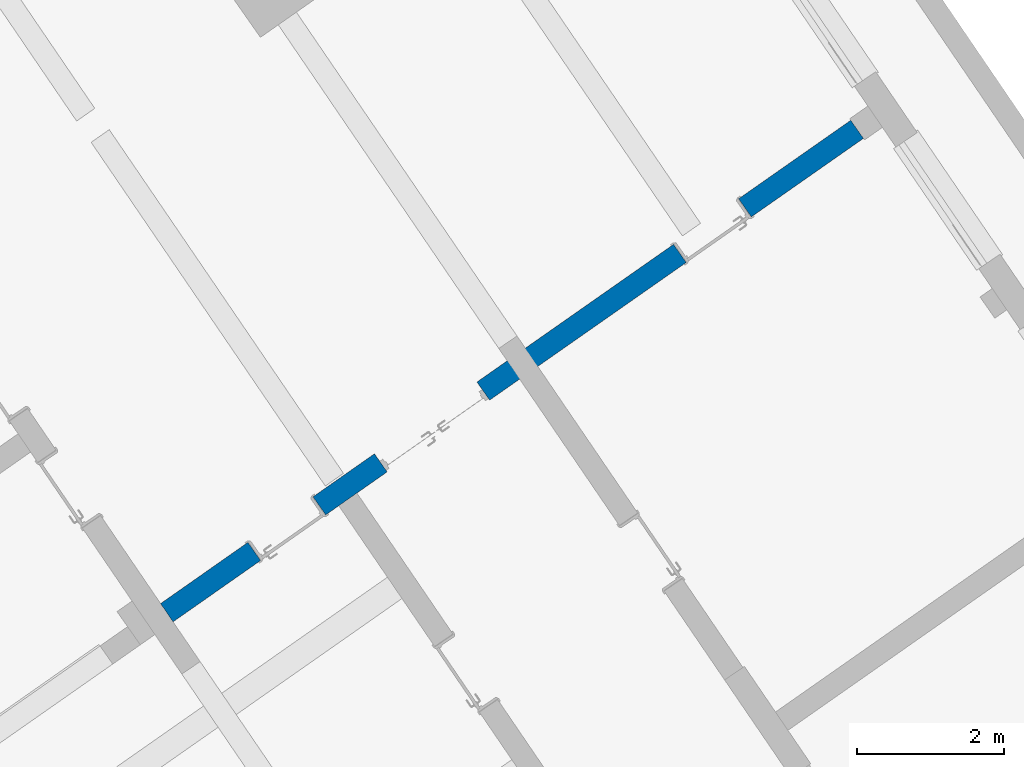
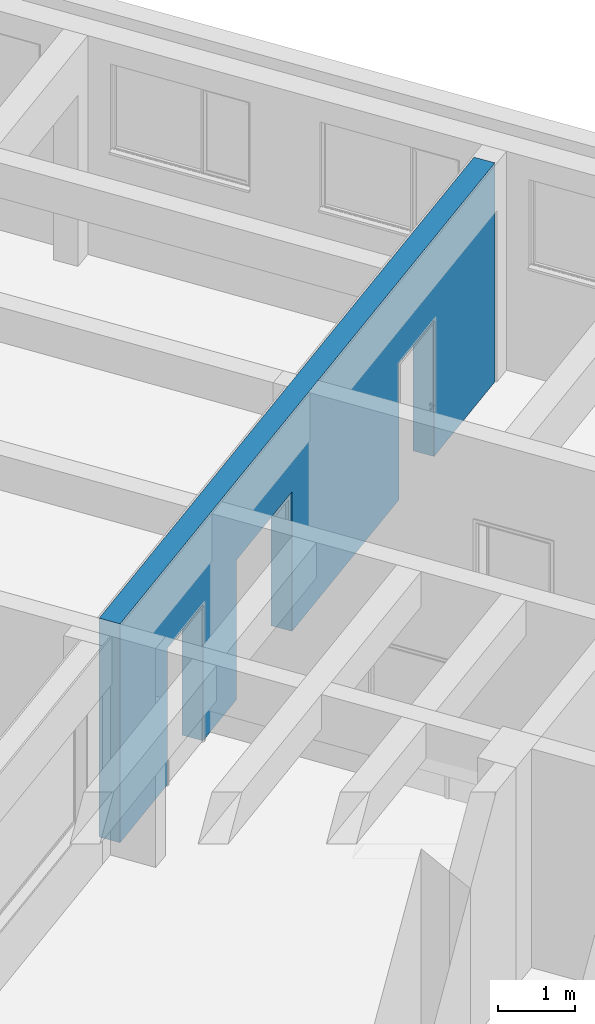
# One storey, part 64 of 112: 1 wall, 3 openings.
"""IFC2X3 building model written with IfcOpenShell, lengths in millimetres."""

from ifc_helpers import new_model, entity, si_unit, converted_unit, derived_unit, direction, frame, frame_2d, origin, place, context, subcontext, project, spatial, polyline, rectangle, outline, extrude, material, layer, layer_set, layer_usage, type_object, element, save


model = new_model("IFC2X3")

# Units and contexts
model_context = context("Model", 3, precision=0.01, world=origin(), true_north=direction((6.123031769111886e-17, 1.0)))
body_context = subcontext(model_context, "Body", "Model", "MODEL_VIEW")
ifc_project = project(units=[si_unit("LENGTHUNIT", "METRE", prefix="MILLI"), si_unit("AREAUNIT", "SQUARE_METRE"), si_unit("VOLUMEUNIT", "CUBIC_METRE"), converted_unit("PLANEANGLEUNIT", "DEGREE", entity("IfcRatioMeasure", 0.017453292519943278), si_unit("PLANEANGLEUNIT", "RADIAN"), dimensions=[0, 0, 0, 0, 0, 0, 0]), si_unit("MASSUNIT", "GRAM", prefix="KILO"), derived_unit("MASSDENSITYUNIT", [(si_unit("MASSUNIT", "GRAM", prefix="KILO"), 1), (si_unit("LENGTHUNIT", "METRE"), -3)]), derived_unit("MOMENTOFINERTIAUNIT", [(si_unit("LENGTHUNIT", "METRE"), 4)]), si_unit("TIMEUNIT", "SECOND"), si_unit("FREQUENCYUNIT", "HERTZ"), si_unit("THERMODYNAMICTEMPERATUREUNIT", "DEGREE_CELSIUS"), derived_unit("THERMALTRANSMITTANCEUNIT", [(si_unit("MASSUNIT", "GRAM", prefix="KILO"), 1), (si_unit("THERMODYNAMICTEMPERATUREUNIT", "KELVIN"), -1), (si_unit("TIMEUNIT", "SECOND"), -3)]), derived_unit("THERMALCONDUCTANCEUNIT", [(si_unit("MASSUNIT", "GRAM", prefix="KILO"), 1), (si_unit("LENGTHUNIT", "METRE"), 1), (si_unit("THERMODYNAMICTEMPERATUREUNIT", "KELVIN"), -1), (si_unit("TIMEUNIT", "SECOND"), -3)]), derived_unit("VOLUMETRICFLOWRATEUNIT", [(si_unit("LENGTHUNIT", "METRE"), 3), (si_unit("TIMEUNIT", "SECOND"), -1)]), derived_unit("MASSFLOWRATEUNIT", [(si_unit("MASSUNIT", "GRAM", prefix="KILO"), 1), (si_unit("TIMEUNIT", "SECOND"), -1)]), derived_unit("ROTATIONALFREQUENCYUNIT", [(si_unit("TIMEUNIT", "SECOND"), -1)]), si_unit("ELECTRICCURRENTUNIT", "AMPERE"), si_unit("ELECTRICVOLTAGEUNIT", "VOLT"), si_unit("POWERUNIT", "WATT"), converted_unit("FORCEUNIT", "KIP", entity("IfcRatioMeasure", 2.088543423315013e-05), si_unit("FORCEUNIT", "NEWTON"), dimensions=[1, 1, -2, 0, 0, 0, 0]), si_unit("ILLUMINANCEUNIT", "LUX"), si_unit("LUMINOUSFLUXUNIT", "LUMEN"), si_unit("LUMINOUSINTENSITYUNIT", "CANDELA"), derived_unit("USERDEFINED", [(si_unit("MASSUNIT", "GRAM", prefix="KILO"), -1), (si_unit("LENGTHUNIT", "METRE"), -2), (si_unit("TIMEUNIT", "SECOND"), 3), (si_unit("LUMINOUSFLUXUNIT", "LUMEN"), 1)]), derived_unit("USERDEFINED", [(si_unit("MASSUNIT", "GRAM", prefix="KILO"), 1), (si_unit("LENGTHUNIT", "METRE"), 3), (si_unit("TIMEUNIT", "SECOND"), -3), (si_unit("ELECTRICCURRENTUNIT", "AMPERE"), -2)]), derived_unit("USERDEFINED", [(si_unit("LENGTHUNIT", "METRE"), 2), (si_unit("TIMEUNIT", "SECOND"), -2)]), derived_unit("SOUNDPOWERUNIT", [(si_unit("MASSUNIT", "GRAM", prefix="KILO"), 1), (si_unit("LENGTHUNIT", "METRE"), 2), (si_unit("TIMEUNIT", "SECOND"), -3)]), derived_unit("SOUNDPRESSUREUNIT", [(si_unit("MASSUNIT", "GRAM", prefix="KILO"), 1), (si_unit("LENGTHUNIT", "METRE"), -1), (si_unit("TIMEUNIT", "SECOND"), -2)]), derived_unit("LINEARVELOCITYUNIT", [(si_unit("LENGTHUNIT", "METRE"), 1), (si_unit("TIMEUNIT", "SECOND"), -1)]), si_unit("PRESSUREUNIT", "PASCAL"), derived_unit("USERDEFINED", [(si_unit("LENGTHUNIT", "METRE"), -2), (si_unit("MASSUNIT", "GRAM", prefix="KILO"), 1), (si_unit("TIMEUNIT", "SECOND"), -2)]), derived_unit("LINEARFORCEUNIT", [(si_unit("MASSUNIT", "GRAM", prefix="KILO"), 1), (si_unit("LENGTHUNIT", "METRE"), 1), (si_unit("TIMEUNIT", "SECOND"), -2), (si_unit("LENGTHUNIT", "METRE"), -1)]), derived_unit("PLANARFORCEUNIT", [(si_unit("MASSUNIT", "GRAM", prefix="KILO"), 1), (si_unit("LENGTHUNIT", "METRE"), 1), (si_unit("TIMEUNIT", "SECOND"), -2), (si_unit("LENGTHUNIT", "METRE"), -2)]), derived_unit("SPECIFICHEATCAPACITYUNIT", [(si_unit("LENGTHUNIT", "METRE"), 2), (si_unit("TIMEUNIT", "SECOND"), -2), (si_unit("THERMODYNAMICTEMPERATUREUNIT", "KELVIN"), -1)]), derived_unit("VAPORPERMEABILITYUNIT", [(si_unit("TIMEUNIT", "SECOND"), 1), (si_unit("LENGTHUNIT", "METRE"), -1)]), derived_unit("DYNAMICVISCOSITYUNIT", [(si_unit("MASSUNIT", "GRAM", prefix="KILO"), 1), (si_unit("LENGTHUNIT", "METRE"), -1), (si_unit("TIMEUNIT", "SECOND"), -1)]), derived_unit("THERMALEXPANSIONCOEFFICIENTUNIT", [(si_unit("THERMODYNAMICTEMPERATUREUNIT", "KELVIN"), -1)])], contexts=[model_context])

# Site, building, storey
site_placement = place(None, frame((0.0, 0.0, 0.0), z_axis=(0.0, 0.0, 1.0), x_axis=(0.8191520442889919, 0.5735764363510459, 0.0)))
site = spatial("IfcSite", under=ifc_project, at=site_placement, Name="Default", CompositionType="ELEMENT")
building_placement = place(site_placement, origin())
building = spatial("IfcBuilding", under=site, at=building_placement, CompositionType="ELEMENT")
storey_placement = place(building_placement, frame((0.0, 0.0, -3600.0)))
storey = spatial("IfcBuildingStorey", under=building, at=storey_placement, Name="0.UG -3.60", CompositionType="ELEMENT", Elevation=-3600.0000000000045)

# Wall, openings
ifc_material = material(Name="Analytical Wall Surface_CJC")
ifc_layer = layer(ifc_material, 300.0)
ifc_layer_set = layer_set([ifc_layer], Name="Basic Wall:Wand_Innen_30")
ifc_layer_usage = layer_usage(ifc_layer_set, "AXIS2", "POSITIVE", -150.0)
wall_type = type_object("IfcWallType", Name="Basic Wall:Wand_Innen_30", PredefinedType="STANDARD", material=ifc_layer_set)
wall_placement = place(storey_placement, frame((-216773.30760647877, 121696.35891435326, 0.0)))
wall = element("IfcWallStandardCase", 1, at=wall_placement, inside=storey, type_object=wall_type, material=ifc_layer_usage, Name="Basic Wall:Wand_Innen_30", ObjectType="Basic Wall:Wand_Innen_30", context=body_context, shape_type="SweptSolid", body=[
    extrude(outline(polyline([(0.0, -150.0), (11452.877190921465, -150.0), (11452.877190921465, 150.0), (3.8191857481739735, 150.0), (0.0, -150.0)])), origin(), (0.0, 0.0, 1.0), 3450.0),
])
opening_1_placement = place(wall_placement, frame((9592.877190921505, 150.0, 0.0)))
element("IfcOpeningElement", 2, at=opening_1_placement, cuts=wall, Name="Doors_IntSgl:100x210:1", ObjectType="Opening", context=body_context, shape_type="SweptSolid", body=[
    extrude(rectangle(XDim=2150.000000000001, YDim=1079.9999999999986, at=frame_2d((1075.0000000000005, 539.9999999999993), x_axis=(1.0, 0.0))), frame((0.0, 0.0, 0.0), z_axis=(0.0, -1.0, 0.0), x_axis=(0.0, 0.0, 1.0)), (0.0, 0.0, 1.0), 300.0),
])
opening_2_placement = place(wall_placement, frame((2532.8771909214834, 150.0, 0.0)))
element("IfcOpeningElement", 3, at=opening_2_placement, cuts=wall, Name="Doors_IntSgl:100x210:1", ObjectType="Opening", context=body_context, shape_type="SweptSolid", body=[
    extrude(rectangle(XDim=2150.000000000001, YDim=1079.9999999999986, at=frame_2d((1075.0000000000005, 539.9999999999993), x_axis=(1.0, 0.0))), frame((0.0, 0.0, 0.0), z_axis=(0.0, -1.0, 0.0), x_axis=(0.0, 0.0, 1.0)), (0.0, 0.0, 1.0), 300.0),
])
opening_3_placement = place(wall_placement, frame((5251.927190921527, 150.0, 0.0)))
element("IfcOpeningElement", 4, at=opening_3_placement, cuts=wall, Name="M_Door-Passage-Double-Flush:160x210:1", ObjectType="Opening", context=body_context, shape_type="SweptSolid", body=[
    extrude(rectangle(XDim=2200.0, YDim=1699.9999999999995, at=frame_2d((1100.0, 849.9999999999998), x_axis=(1.0, 0.0))), frame((0.0, 0.0, 0.0), z_axis=(0.0, -1.0, 0.0), x_axis=(0.0, 0.0, 1.0)), (0.0, 0.0, 1.0), 300.0),
])

save(model, "model.ifc")
